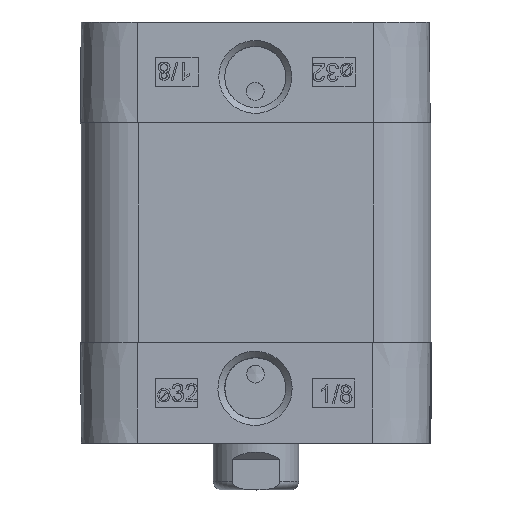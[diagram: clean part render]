
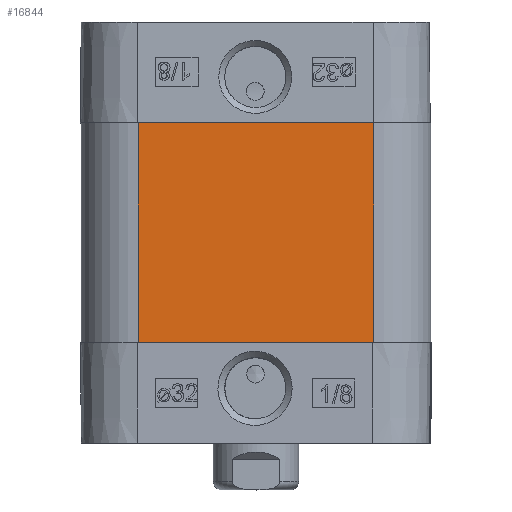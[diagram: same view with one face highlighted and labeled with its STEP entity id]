
A CAD part, top view. The second image highlights one B-rep face of the part: STEP entity #16844.
In plain terms, the highlighted planar face has unit normal (0, 0, 1) as drawn and (-1, 0, 0) by its records, which use the part's own axes.
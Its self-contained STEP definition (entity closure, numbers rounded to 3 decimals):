
#1509=LINE('',#26369,#2557);
#1553=LINE('',#26543,#2601);
#1554=LINE('',#26545,#2602);
#1555=LINE('',#26547,#2603);
#2557=VECTOR('',#20611,1000.);
#2601=VECTOR('',#20743,1000.);
#2602=VECTOR('',#20746,1000.);
#2603=VECTOR('',#20747,1000.);
#3024=PLANE('',#17871);
#6107=ORIENTED_EDGE('',*,*,#8062,.T.);
#6108=ORIENTED_EDGE('',*,*,#8149,.F.);
#6109=ORIENTED_EDGE('',*,*,#8150,.F.);
#6110=ORIENTED_EDGE('',*,*,#8151,.T.);
#8062=EDGE_CURVE('',#9357,#9356,#1509,.T.);
#8149=EDGE_CURVE('',#9442,#9356,#1553,.T.);
#8150=EDGE_CURVE('',#9443,#9442,#1554,.T.);
#8151=EDGE_CURVE('',#9443,#9357,#1555,.T.);
#9356=VERTEX_POINT('',#26368);
#9357=VERTEX_POINT('',#26370);
#9442=VERTEX_POINT('',#26542);
#9443=VERTEX_POINT('',#26546);
#10775=EDGE_LOOP('',(#6107,#6108,#6109,#6110));
#11669=FACE_BOUND('',#10775,.T.);
#16844=ADVANCED_FACE('',(#11669),#3024,.T.);
#17871=AXIS2_PLACEMENT_3D('',#26544,#20744,#20745);
#20611=DIRECTION('',(0.,1.,0.));
#20743=DIRECTION('',(0.,0.,1.));
#20744=DIRECTION('',(-1.,0.,0.));
#20745=DIRECTION('',(0.,0.,1.));
#20746=DIRECTION('',(0.,1.,0.));
#20747=DIRECTION('',(0.,0.,1.));
#26368=CARTESIAN_POINT('',(-24.5,16.5,30.8));
#26369=CARTESIAN_POINT('',(-24.5,-16.5,30.8));
#26370=CARTESIAN_POINT('',(-24.5,-16.5,30.8));
#26542=CARTESIAN_POINT('',(-24.5,16.5,0.));
#26543=CARTESIAN_POINT('',(-24.5,16.5,0.));
#26544=CARTESIAN_POINT('',(-24.5,-16.5,0.));
#26545=CARTESIAN_POINT('',(-24.5,-16.5,0.));
#26546=CARTESIAN_POINT('',(-24.5,-16.5,0.));
#26547=CARTESIAN_POINT('',(-24.5,-16.5,0.));
